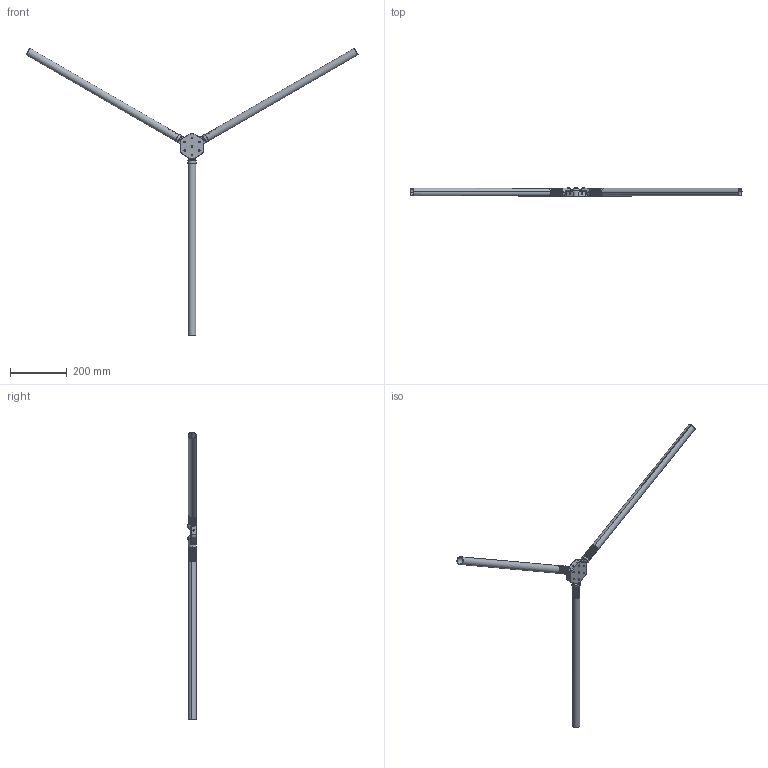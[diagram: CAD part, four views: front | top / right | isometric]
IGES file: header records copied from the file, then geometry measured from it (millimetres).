
Start section: SolidWorks IGES file using analytic representation for surfaces
Global section: file name: \\SERVER3\Design\_NEWDE~1\_DESIG~1\AAI\MODULA~1\SOLIDW~1\DEMONS~1\25DBF2~1.ASS\MODULA~1\769F8~1.RAD\RADIAL~2\Six Sided Connector with Three Single Sided Clevis Connectors Connection.IGS; native system: SolidWorks 2013; preprocessor: SolidWorks 2013; author: tbraun; date: 130819.121232; units: inch
Bounding box: 1175.33 x 30.45 x 1017.86 mm (x, y, z)
Surface area: 364082.5 mm2 (no closed solid volume)
Topology: 0 solids, 0 shells, 1348 faces, 17499 edges, 17481 vertices
Faces by surface type: revolution 932, bspline 416
